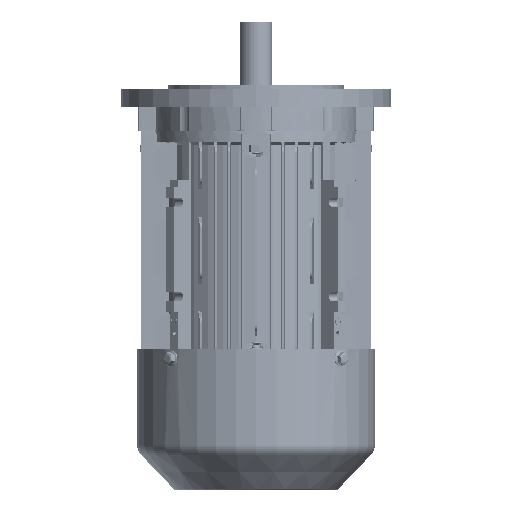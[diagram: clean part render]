
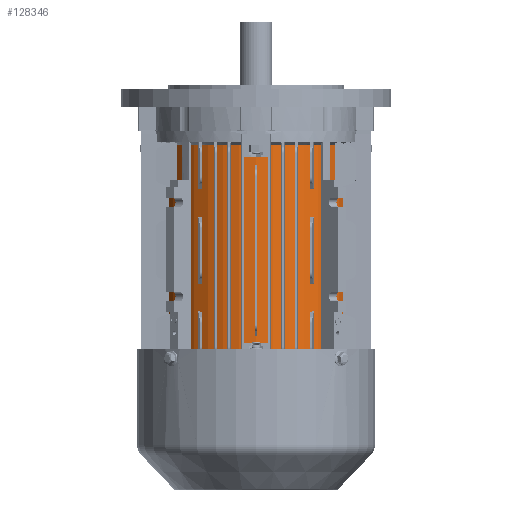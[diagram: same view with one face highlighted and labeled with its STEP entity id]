
A CAD part, front view. The second image highlights one B-rep face of the part: STEP entity #128346.
In plain terms, the highlighted cylindrical face has radius 71.192 mm (diameter 142.384 mm), a partial arc.
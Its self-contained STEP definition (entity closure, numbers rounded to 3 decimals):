
#1364 = VERTEX_POINT ( 'NONE', #90650 ) ;
#3590 = ORIENTED_EDGE ( 'NONE', *, *, #64531, .T. ) ;
#10305 = EDGE_LOOP ( 'NONE', ( #53594, #110614, #3590, #134750 ) ) ;
#13832 = VERTEX_POINT ( 'NONE', #131818 ) ;
#18313 = CARTESIAN_POINT ( 'NONE',  ( 0., 0., -13.023 ) ) ;
#28737 = DIRECTION ( 'NONE',  ( 1., 0., 0. ) ) ;
#36967 = CYLINDRICAL_SURFACE ( 'NONE', #122232, 71.192 ) ;
#40218 = FACE_OUTER_BOUND ( 'NONE', #10305, .T. ) ;
#49051 = DIRECTION ( 'NONE',  ( 0., 0., 1. ) ) ;
#53546 = CARTESIAN_POINT ( 'NONE',  ( -71.192, 0., -13.023 ) ) ;
#53594 = ORIENTED_EDGE ( 'NONE', *, *, #94962, .F. ) ;
#53687 = DIRECTION ( 'NONE',  ( 0., 0., 1. ) ) ;
#64531 = EDGE_CURVE ( 'NONE', #1364, #13832, #126226, .T. ) ;
#70276 = CARTESIAN_POINT ( 'NONE',  ( 0., 0., 0. ) ) ;
#71848 = DIRECTION ( 'NONE',  ( 0., 0., 1. ) ) ;
#73943 = VERTEX_POINT ( 'NONE', #53546 ) ;
#82251 = VECTOR ( 'NONE', #71848, 1000. ) ;
#86799 = AXIS2_PLACEMENT_3D ( 'NONE', #18313, #90938, #28737 ) ;
#90263 = CIRCLE ( 'NONE', #122958, 71.192 ) ;
#90650 = CARTESIAN_POINT ( 'NONE',  ( 71.192, 0., -169.023 ) ) ;
#90938 = DIRECTION ( 'NONE',  ( 0., 0., 1. ) ) ;
#94962 = EDGE_CURVE ( 'NONE', #104295, #73943, #106542, .T. ) ;
#100544 = CIRCLE ( 'NONE', #86799, 71.192 ) ;
#101003 = DIRECTION ( 'NONE',  ( 0., 0., 1. ) ) ;
#104295 = VERTEX_POINT ( 'NONE', #116740 ) ;
#106542 = LINE ( 'NONE', #134064, #82251 ) ;
#108685 = EDGE_CURVE ( 'NONE', #104295, #1364, #90263, .T. ) ;
#110614 = ORIENTED_EDGE ( 'NONE', *, *, #108685, .T. ) ;
#112707 = EDGE_CURVE ( 'NONE', #73943, #13832, #100544, .T. ) ;
#115835 = CARTESIAN_POINT ( 'NONE',  ( 0., 0., -169.023 ) ) ;
#116740 = CARTESIAN_POINT ( 'NONE',  ( -71.192, 0., -169.023 ) ) ;
#119677 = VECTOR ( 'NONE', #49051, 1000. ) ;
#121736 = CARTESIAN_POINT ( 'NONE',  ( 71.192, 0., 0. ) ) ;
#121972 = DIRECTION ( 'NONE',  ( 1., 0., 0. ) ) ;
#122232 = AXIS2_PLACEMENT_3D ( 'NONE', #70276, #101003, #121972 ) ;
#122958 = AXIS2_PLACEMENT_3D ( 'NONE', #115835, #53687, #126317 ) ;
#126226 = LINE ( 'NONE', #121736, #119677 ) ;
#126317 = DIRECTION ( 'NONE',  ( 1., 0., 0. ) ) ;
#128346 = ADVANCED_FACE ( 'NONE', ( #40218 ), #36967, .T. ) ;
#131818 = CARTESIAN_POINT ( 'NONE',  ( 71.192, 0., -13.023 ) ) ;
#134064 = CARTESIAN_POINT ( 'NONE',  ( -71.192, 0., 0. ) ) ;
#134750 = ORIENTED_EDGE ( 'NONE', *, *, #112707, .F. ) ;
